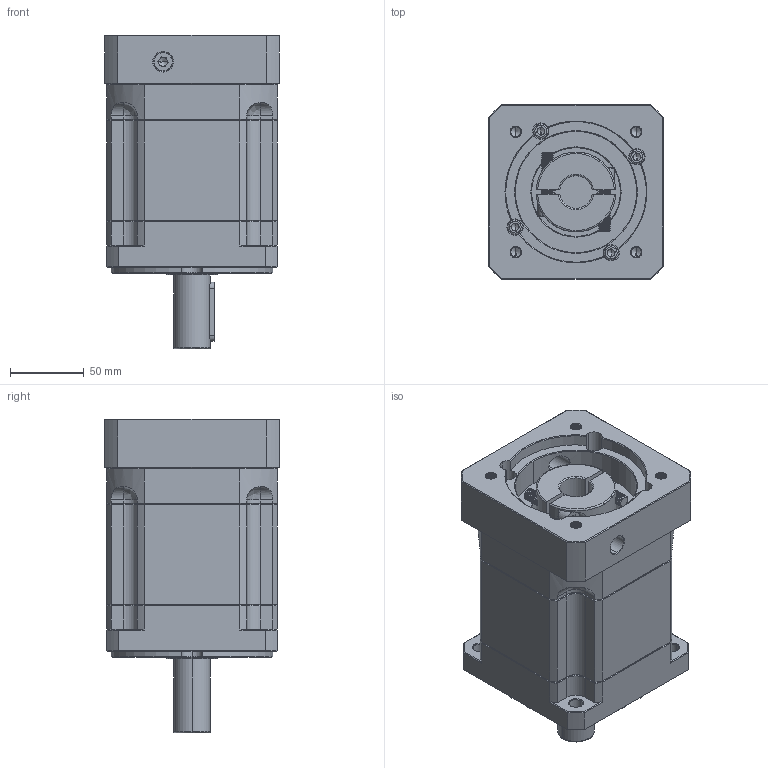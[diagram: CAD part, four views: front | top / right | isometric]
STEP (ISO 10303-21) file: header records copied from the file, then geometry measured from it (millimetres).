
FILE_DESCRIPTION (( 'STEP AP214' ), '1' );
FILE_NAME ('ZB115A-D25-L2-P2-22-95-115-M8.step', '2023-08-26T06:23:41', ( '' ), ( '' ), 'SwSTEP 2.0', 'SolidWorks 2016', '' );
FILE_SCHEMA (( 'AUTOMOTIVE_DESIGN' ));
Length unit declared in the file: millimetre
Products named in the file (1): ZB115A-D25-L2-P2-22-95-115-M8
Bounding box: 118 x 118 x 212 mm (x, y, z)
Volume: 1792067 mm3; surface area: 174946.2 mm2
Topology: 6 solids, 6 shells, 2406 faces, 6325 edges, 4015 vertices
Faces by surface type: plane 1144, cylinder 448, bspline 423, cone 371, torus 20
Entity records: 129660 total; most frequent: CARTESIAN_POINT 47456, ORIENTED_EDGE 12582, DIRECTION 9968, EDGE_CURVE 6291, VERTEX_POINT 4015, LINE 4000, VECTOR 4000, AXIS2_PLACEMENT_3D 2984
